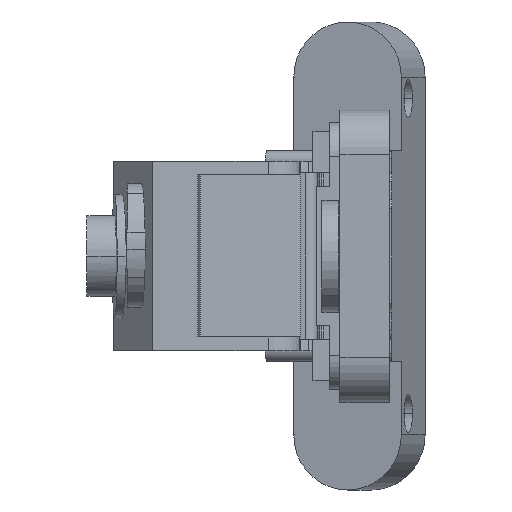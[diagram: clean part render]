
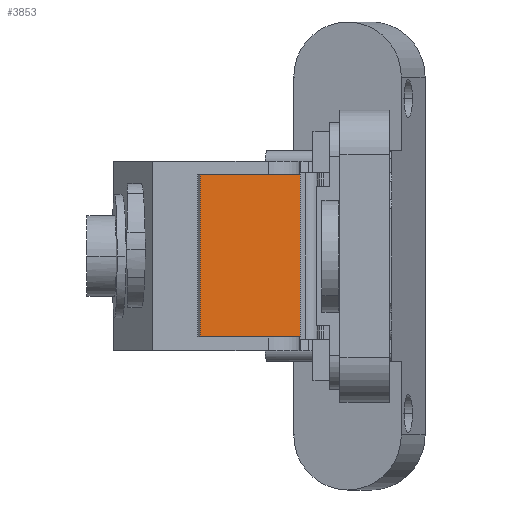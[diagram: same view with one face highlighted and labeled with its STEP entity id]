
A CAD part, left-side view. The second image highlights one B-rep face of the part: STEP entity #3853.
In plain terms, the highlighted planar face has unit normal (-0.993, -0.115, 0).
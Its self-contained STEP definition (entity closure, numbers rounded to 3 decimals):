
#183 = CARTESIAN_POINT ( 'NONE',  ( -34.619, 15.016, 7.2 ) ) ;
#224 = CARTESIAN_POINT ( 'NONE',  ( -34.619, 15.016, -19.606 ) ) ;
#252 = ORIENTED_EDGE ( 'NONE', *, *, #888, .T. ) ;
#295 = CARTESIAN_POINT ( 'NONE',  ( -34.619, 15.016, -7.2 ) ) ;
#407 = ORIENTED_EDGE ( 'NONE', *, *, #2589, .T. ) ;
#607 = DIRECTION ( 'NONE',  ( 0.115, -0.993, 0. ) ) ;
#656 = CARTESIAN_POINT ( 'NONE',  ( -34.619, 15.016, 7.2 ) ) ;
#840 = CARTESIAN_POINT ( 'NONE',  ( -34.619, 15.016, -7.2 ) ) ;
#869 = DIRECTION ( 'NONE',  ( 0.115, -0.993, 0. ) ) ;
#888 = EDGE_CURVE ( 'NONE', #2920, #2759, #5932, .T. ) ;
#1330 = CARTESIAN_POINT ( 'NONE',  ( -33.592, 6.115, 7.2 ) ) ;
#1350 = VERTEX_POINT ( 'NONE', #4580 ) ;
#1802 = DIRECTION ( 'NONE',  ( -0.993, -0.115, 0. ) ) ;
#1868 = CARTESIAN_POINT ( 'NONE',  ( -34.619, 15.016, -19.606 ) ) ;
#1884 = PLANE ( 'NONE',  #7389 ) ;
#1907 = DIRECTION ( 'NONE',  ( -0.115, 0.993, 0. ) ) ;
#2589 = EDGE_CURVE ( 'NONE', #1350, #6847, #3742, .T. ) ;
#2759 = VERTEX_POINT ( 'NONE', #295 ) ;
#2920 = VERTEX_POINT ( 'NONE', #183 ) ;
#3725 = ORIENTED_EDGE ( 'NONE', *, *, #5599, .T. ) ;
#3742 = LINE ( 'NONE', #4506, #4498 ) ;
#3853 = ADVANCED_FACE ( 'NONE', ( #4507 ), #1884, .T. ) ;
#3920 = VECTOR ( 'NONE', #607, 1000. ) ;
#4041 = EDGE_CURVE ( 'NONE', #2920, #6847, #4069, .T. ) ;
#4069 = LINE ( 'NONE', #656, #3920 ) ;
#4498 = VECTOR ( 'NONE', #4512, 1000. ) ;
#4506 = CARTESIAN_POINT ( 'NONE',  ( -33.592, 6.115, 7.2 ) ) ;
#4507 = FACE_OUTER_BOUND ( 'NONE', #7468, .T. ) ;
#4512 = DIRECTION ( 'NONE',  ( 0., 0., 1. ) ) ;
#4580 = CARTESIAN_POINT ( 'NONE',  ( -33.592, 6.115, -7.2 ) ) ;
#4659 = LINE ( 'NONE', #840, #4826 ) ;
#4826 = VECTOR ( 'NONE', #869, 1000. ) ;
#5378 = DIRECTION ( 'NONE',  ( 0., 0., -1. ) ) ;
#5599 = EDGE_CURVE ( 'NONE', #2759, #1350, #4659, .T. ) ;
#5840 = VECTOR ( 'NONE', #5378, 1000. ) ;
#5932 = LINE ( 'NONE', #224, #5840 ) ;
#6847 = VERTEX_POINT ( 'NONE', #1330 ) ;
#7266 = ORIENTED_EDGE ( 'NONE', *, *, #4041, .F. ) ;
#7389 = AXIS2_PLACEMENT_3D ( 'NONE', #1868, #1802, #1907 ) ;
#7468 = EDGE_LOOP ( 'NONE', ( #7266, #252, #3725, #407 ) ) ;
